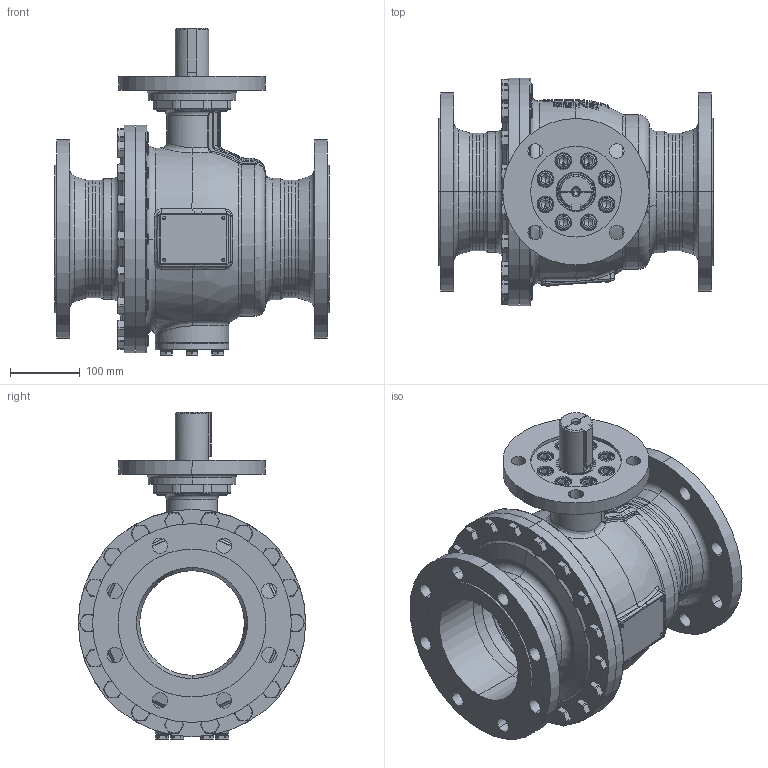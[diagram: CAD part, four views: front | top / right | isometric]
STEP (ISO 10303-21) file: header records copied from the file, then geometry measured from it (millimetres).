
FILE_DESCRIPTION((''),'2;1');
FILE_NAME('KHI-F_150_PN016-F16-P_SW0001','2026-02-05T11:48:27',('fischerkl'),('KLINGER'),'CREO PARAMETRIC BY PTC INC, 2023014','CREO PARAMETRIC BY PTC INC, 2023014','');
FILE_SCHEMA(('CONFIG_CONTROL_DESIGN'));
Products named in the file (1): KHI-F_150_PN016-F16-P_SW0001
Bounding box: 394 x 326 x 469.2 mm (x, y, z)
Volume: 8089007.9 mm3; surface area: 1576927.2 mm2
Topology: 1 solids, 4 shells, 3723 faces, 9532 edges, 5947 vertices
Faces by surface type: plane 2284, cylinder 676, cone 362, torus 260, bspline 113, sphere 28
Entity records: 144408 total; most frequent: CARTESIAN_POINT 56405, ORIENTED_EDGE 19012, DIRECTION 17381, EDGE_CURVE 9506, AXIS2_PLACEMENT_3D 6125, VERTEX_POINT 5947, VECTOR 5131, LINE 5131
